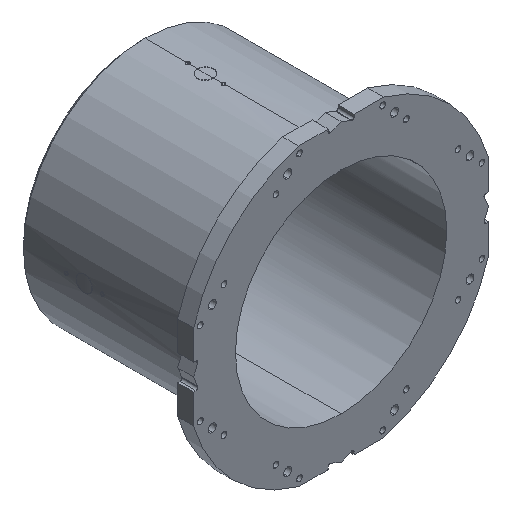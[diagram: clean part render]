
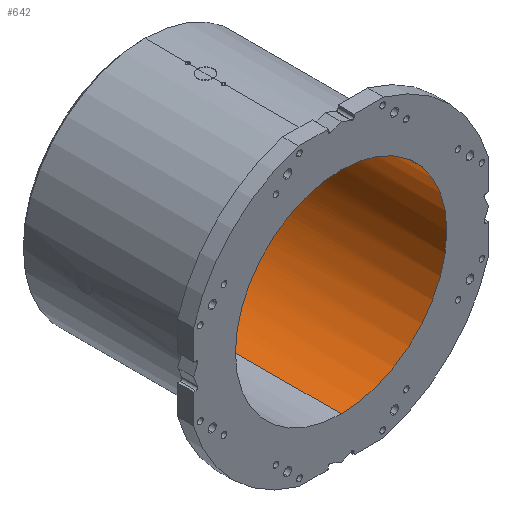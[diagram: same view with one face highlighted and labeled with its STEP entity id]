
A CAD part, isometric view. The second image highlights one B-rep face of the part: STEP entity #642.
In plain terms, the highlighted cylindrical face has radius 265 mm (diameter 530 mm), a partial arc.
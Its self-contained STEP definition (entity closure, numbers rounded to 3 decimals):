
#245 = CARTESIAN_POINT ( 'NONE',  ( 0., 0., 265. ) ) ;
#642 = ADVANCED_FACE ( 'NONE', ( #1098 ), #3580, .F. ) ;
#695 = VERTEX_POINT ( 'NONE', #6485 ) ;
#1098 = FACE_OUTER_BOUND ( 'NONE', #10698, .T. ) ;
#1101 = DIRECTION ( 'NONE',  ( 0., 0., 1. ) ) ;
#1929 = DIRECTION ( 'NONE',  ( 0., 1., 0. ) ) ;
#1981 = DIRECTION ( 'NONE',  ( 0., 1., 0. ) ) ;
#2021 = AXIS2_PLACEMENT_3D ( 'NONE', #8066, #4809, #3975 ) ;
#2139 = AXIS2_PLACEMENT_3D ( 'NONE', #10421, #1929, #1101 ) ;
#2724 = DIRECTION ( 'NONE',  ( 0., 1., 0. ) ) ;
#2750 = VECTOR ( 'NONE', #2724, 1000. ) ;
#2786 = CARTESIAN_POINT ( 'NONE',  ( 0., 0., -265. ) ) ;
#3089 = EDGE_CURVE ( 'NONE', #9829, #695, #5529, .T. ) ;
#3115 = EDGE_CURVE ( 'NONE', #9610, #9829, #5320, .T. ) ;
#3580 = CYLINDRICAL_SURFACE ( 'NONE', #8914, 265. ) ;
#3839 = CARTESIAN_POINT ( 'NONE',  ( 0., 0., -265. ) ) ;
#3940 = ORIENTED_EDGE ( 'NONE', *, *, #7924, .F. ) ;
#3975 = DIRECTION ( 'NONE',  ( 0., 0., 1. ) ) ;
#4111 = CARTESIAN_POINT ( 'NONE',  ( 0., 463., 265. ) ) ;
#4373 = CARTESIAN_POINT ( 'NONE',  ( 0., 0., 0. ) ) ;
#4640 = VECTOR ( 'NONE', #7055, 1000. ) ;
#4809 = DIRECTION ( 'NONE',  ( 0., 1., 0. ) ) ;
#5082 = CARTESIAN_POINT ( 'NONE',  ( 0., 0., 265. ) ) ;
#5320 = LINE ( 'NONE', #245, #4640 ) ;
#5529 = CIRCLE ( 'NONE', #2139, 265. ) ;
#5627 = EDGE_CURVE ( 'NONE', #9610, #7074, #10588, .T. ) ;
#6485 = CARTESIAN_POINT ( 'NONE',  ( 0., 463., -265. ) ) ;
#7055 = DIRECTION ( 'NONE',  ( 0., 1., 0. ) ) ;
#7074 = VERTEX_POINT ( 'NONE', #3839 ) ;
#7558 = ORIENTED_EDGE ( 'NONE', *, *, #3115, .T. ) ;
#7924 = EDGE_CURVE ( 'NONE', #7074, #695, #9616, .T. ) ;
#8066 = CARTESIAN_POINT ( 'NONE',  ( 0., 0., 0. ) ) ;
#8914 = AXIS2_PLACEMENT_3D ( 'NONE', #4373, #1981, #10314 ) ;
#9075 = ORIENTED_EDGE ( 'NONE', *, *, #5627, .F. ) ;
#9610 = VERTEX_POINT ( 'NONE', #5082 ) ;
#9616 = LINE ( 'NONE', #2786, #2750 ) ;
#9653 = ORIENTED_EDGE ( 'NONE', *, *, #3089, .T. ) ;
#9829 = VERTEX_POINT ( 'NONE', #4111 ) ;
#10314 = DIRECTION ( 'NONE',  ( 0., 0., 1. ) ) ;
#10421 = CARTESIAN_POINT ( 'NONE',  ( 0., 463., 0. ) ) ;
#10588 = CIRCLE ( 'NONE', #2021, 265. ) ;
#10698 = EDGE_LOOP ( 'NONE', ( #3940, #9075, #7558, #9653 ) ) ;
